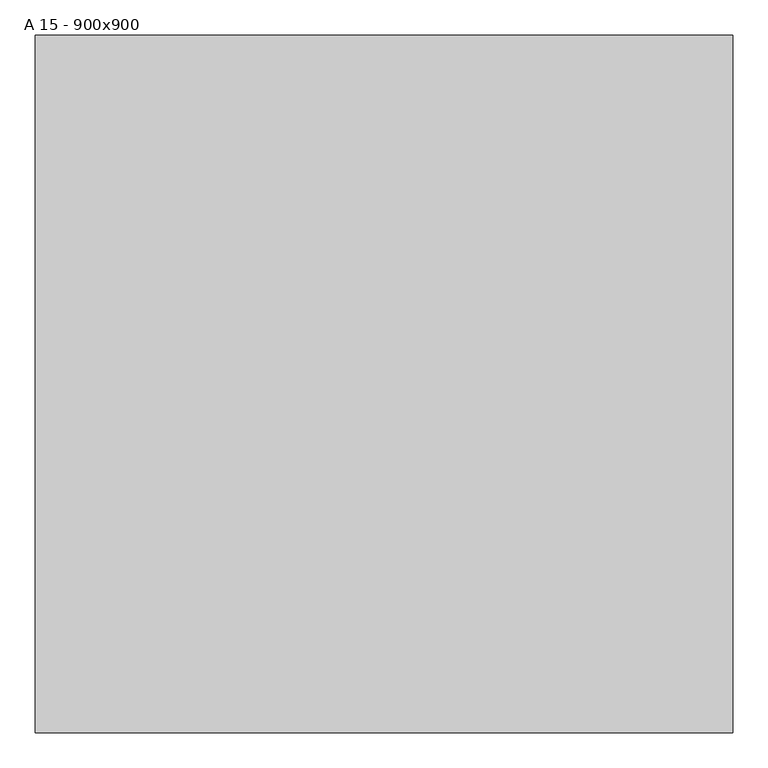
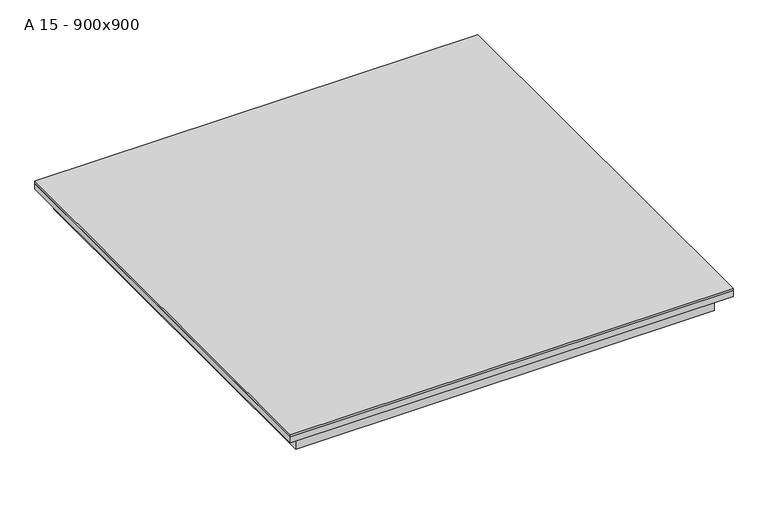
"""IFC4 building model written with IfcOpenShell, lengths in millimetres: proxy geometry, ME_ST_WPB_Access Cover SOLID SS_ACO : A 15 - 900x900."""

from ifc_helpers import new_model, si_unit, frame, origin, place, context, project, spatial, polyline, outline, extrude, faceted_brep, source, transform, mapped, element, save


def a_15_900x900_f7cd6fdf(model_context):
    return source(origin(), model_context, "Body", "SolidModel", [
        extrude(outline(polyline([(-425.0, 135.0), (-420.0, 135.0), (-420.0, 2.5), (420.0, 2.5), (420.0, 135.0), (425.0, 135.0), (425.0, -135.0), (420.0, -135.0), (420.0, -2.5), (-420.0, -2.5), (-420.0, -135.0), (-425.0, -135.0), (-425.0, 135.0)])), frame((0.0, 0.0, -85.0), z_axis=(0.0, 0.0, 1.0), x_axis=(1.0, 0.0, 0.0)), (0.0, 0.0, 1.0), 80.0),
        extrude(outline(polyline([(498.0, 498.0), (498.0, -498.0), (-498.0, -498.0), (-498.0, 498.0), (498.0, 498.0)])), frame((0.0, 0.0, -5.0), z_axis=(0.0, 0.0, 1.0), x_axis=(1.0, 0.0, 0.0)), (0.0, 0.0, 1.0), 5.0),
        faceted_brep([(498.0, 498.0, -19.0), (498.0, 498.0, -5.0), (498.0, -498.0, -5.0), (498.0, -498.0, -19.0), (450.0, 450.0, -57.5), (450.0, 450.0, -59.5), (450.0, -450.0, -59.5), (450.0, -450.0, -57.5), (496.0, 496.0, -5.0), (496.0, 496.0, -17.0), (496.0, -496.0, -17.0), (496.0, -496.0, -5.0), (-498.0, -498.0, -5.0), (-498.0, -498.0, -19.0), (-450.0, -450.0, -59.5), (-450.0, -450.0, -57.5), (-496.0, -496.0, -17.0), (-496.0, -496.0, -5.0), (-498.0, 498.0, -5.0), (-498.0, 498.0, -19.0), (-450.0, 450.0, -59.5), (-450.0, 450.0, -57.5), (-496.0, 496.0, -17.0), (-496.0, 496.0, -5.0), (471.0, -471.0, -59.5), (-471.0, -471.0, -59.5), (-471.0, 471.0, -59.5), (471.0, 471.0, -59.5), (469.0, 469.0, -57.5), (-469.0, 469.0, -57.5), (-469.0, -469.0, -57.5), (469.0, -469.0, -57.5), (471.0, 471.0, -19.0), (471.0, -471.0, -19.0), (469.0, 469.0, -17.0), (469.0, -469.0, -17.0), (-471.0, -471.0, -19.0), (-469.0, -469.0, -17.0), (-471.0, 471.0, -19.0), (-469.0, 469.0, -17.0)], [[[0, 1, 2, 3]], [[4, 5, 6, 7]], [[8, 9, 10, 11]], [[3, 2, 12, 13]], [[7, 6, 14, 15]], [[11, 10, 16, 17]], [[13, 12, 18, 19]], [[15, 14, 20, 21]], [[17, 16, 22, 23]], [[19, 18, 1, 0]], [[24, 25, 26, 27], [5, 20, 14, 6]], [[21, 20, 5, 4]], [[28, 29, 30, 31], [7, 15, 21, 4]], [[23, 22, 9, 8]], [[27, 32, 33, 24]], [[34, 28, 31, 35]], [[24, 33, 36, 25]], [[35, 31, 30, 37]], [[25, 36, 38, 26]], [[37, 30, 29, 39]], [[3, 13, 19, 0], [32, 38, 36, 33]], [[26, 38, 32, 27]], [[39, 29, 28, 34]], [[9, 22, 16, 10], [35, 37, 39, 34]], [[1, 18, 12, 2], [11, 17, 23, 8]]]),
    ])


if __name__ == "__main__":
    model = new_model("IFC4")
    model_context = context("Model", 3, world=origin())
    ifc_project = project(units=[si_unit("LENGTHUNIT", "METRE", prefix="MILLI")], contexts=[model_context])
    site = spatial("IfcSite", under=ifc_project)
    building = spatial("IfcBuilding", under=site)
    placement = place(None, origin())
    a_15_900x900_shape = a_15_900x900_f7cd6fdf(model_context)
    element("IfcBuildingElementProxy", 1, Name="ME_ST_WPB_Access Cover SOLID SS_ACO : A 15 - 900x900", ObjectType="ME_ST_WPB_Access Cover SOLID SS_ACO : A 15 - 900x900", at=placement, inside=building, context=model_context, shape_type="MappedRepresentation", body=[
        mapped(a_15_900x900_shape, transform((0.0, 0.0, 0.0), x_axis=(1.0, 0.0, 0.0), y_axis=(0.0, 1.0, 0.0), z_axis=(0.0, 0.0, 1.0))),
    ])
    save(model, "model.ifc")
